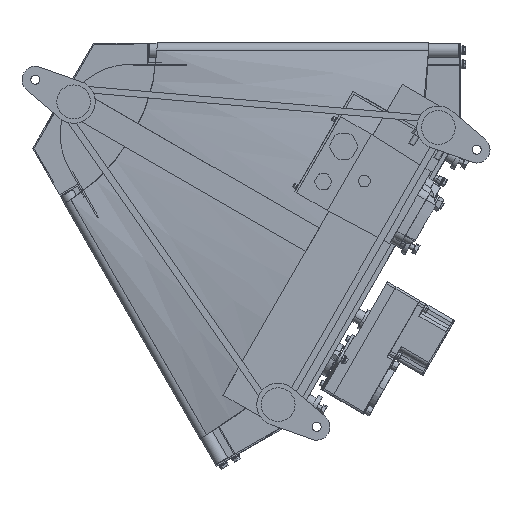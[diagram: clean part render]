
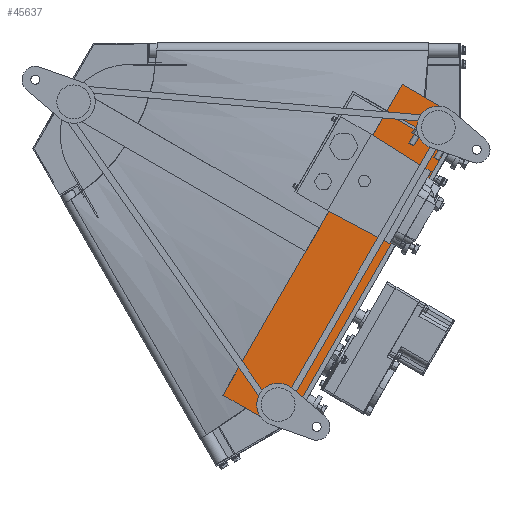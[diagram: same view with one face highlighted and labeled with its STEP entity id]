
A CAD part, front view. The second image highlights one B-rep face of the part: STEP entity #45637.
In plain terms, the highlighted planar face has unit normal (0, -1, 0).
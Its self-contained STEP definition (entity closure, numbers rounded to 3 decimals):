
#3047 = CARTESIAN_POINT ( 'NONE',  ( 356.512, -167.5, -500.281 ) ) ;
#3945 = DIRECTION ( 'NONE',  ( 0., 1., 0. ) ) ;
#5025 = VECTOR ( 'NONE', #15200, 1000. ) ;
#5143 = VECTOR ( 'NONE', #40590, 1000. ) ;
#6021 = EDGE_CURVE ( 'NONE', #24603, #40354, #9517, .T. ) ;
#9517 = LINE ( 'NONE', #19600, #32266 ) ;
#11490 = VECTOR ( 'NONE', #17652, 1000. ) ;
#12335 = EDGE_CURVE ( 'NONE', #43395, #43021, #45389, .T. ) ;
#13284 = ORIENTED_EDGE ( 'NONE', *, *, #22675, .F. ) ;
#13612 = CARTESIAN_POINT ( 'NONE',  ( 417.134, -167.5, -535.281 ) ) ;
#14746 = DIRECTION ( 'NONE',  ( 0.208, 0., 0.978 ) ) ;
#15200 = DIRECTION ( 'NONE',  ( 0.259, 0., -0.966 ) ) ;
#15238 = PLANE ( 'NONE',  #26490 ) ;
#15253 = VECTOR ( 'NONE', #28928, 1000. ) ;
#16843 = CARTESIAN_POINT ( 'NONE',  ( 611.512, -167.5, -58.608 ) ) ;
#17652 = DIRECTION ( 'NONE',  ( 0.5, 0., 0.866 ) ) ;
#17809 = FACE_OUTER_BOUND ( 'NONE', #31791, .T. ) ;
#19600 = CARTESIAN_POINT ( 'NONE',  ( 458.115, -167.5, -524.3 ) ) ;
#19767 = DIRECTION ( 'NONE',  ( -0.5, 0., -0.866 ) ) ;
#22502 = VERTEX_POINT ( 'NONE', #16843 ) ;
#22675 = EDGE_CURVE ( 'NONE', #43021, #22502, #45891, .T. ) ;
#24489 = ORIENTED_EDGE ( 'NONE', *, *, #12335, .F. ) ;
#24603 = VERTEX_POINT ( 'NONE', #43516 ) ;
#24905 = CARTESIAN_POINT ( 'NONE',  ( 611.512, -167.5, -58.608 ) ) ;
#26490 = AXIS2_PLACEMENT_3D ( 'NONE', #44559, #3945, #14746 ) ;
#26748 = ORIENTED_EDGE ( 'NONE', *, *, #33891, .F. ) ;
#28928 = DIRECTION ( 'NONE',  ( 0.866, 0., -0.5 ) ) ;
#31791 = EDGE_LOOP ( 'NONE', ( #46144, #41973, #13284, #24489, #26748, #47256 ) ) ;
#32209 = LINE ( 'NONE', #13612, #33366 ) ;
#32266 = VECTOR ( 'NONE', #19767, 1000. ) ;
#33055 = LINE ( 'NONE', #37532, #5025 ) ;
#33329 = LINE ( 'NONE', #24905, #15253 ) ;
#33366 = VECTOR ( 'NONE', #43898, 1000. ) ;
#33891 = EDGE_CURVE ( 'NONE', #40354, #43395, #32209, .T. ) ;
#35285 = CARTESIAN_POINT ( 'NONE',  ( 417.134, -167.5, -535.281 ) ) ;
#36740 = VERTEX_POINT ( 'NONE', #47514 ) ;
#37532 = CARTESIAN_POINT ( 'NONE',  ( 683.115, -167.5, -134.589 ) ) ;
#37982 = EDGE_CURVE ( 'NONE', #36740, #24603, #33055, .T. ) ;
#39919 = CARTESIAN_POINT ( 'NONE',  ( 356.512, -167.5, -500.281 ) ) ;
#40354 = VERTEX_POINT ( 'NONE', #46270 ) ;
#40590 = DIRECTION ( 'NONE',  ( -0.866, 0., 0.5 ) ) ;
#41973 = ORIENTED_EDGE ( 'NONE', *, *, #46695, .F. ) ;
#43021 = VERTEX_POINT ( 'NONE', #39919 ) ;
#43395 = VERTEX_POINT ( 'NONE', #35285 ) ;
#43516 = CARTESIAN_POINT ( 'NONE',  ( 683.115, -167.5, -134.589 ) ) ;
#43898 = DIRECTION ( 'NONE',  ( -0.966, 0., -0.259 ) ) ;
#44559 = CARTESIAN_POINT ( 'NONE',  ( 96.033, -167.5, -55.445 ) ) ;
#45389 = LINE ( 'NONE', #3047, #5143 ) ;
#45637 = ADVANCED_FACE ( 'NONE', ( #17809 ), #15238, .F. ) ;
#45891 = LINE ( 'NONE', #47322, #11490 ) ;
#46144 = ORIENTED_EDGE ( 'NONE', *, *, #37982, .F. ) ;
#46270 = CARTESIAN_POINT ( 'NONE',  ( 458.115, -167.5, -524.3 ) ) ;
#46695 = EDGE_CURVE ( 'NONE', #22502, #36740, #33329, .T. ) ;
#47256 = ORIENTED_EDGE ( 'NONE', *, *, #6021, .F. ) ;
#47322 = CARTESIAN_POINT ( 'NONE',  ( 356.512, -167.5, -500.281 ) ) ;
#47514 = CARTESIAN_POINT ( 'NONE',  ( 672.134, -167.5, -93.608 ) ) ;
